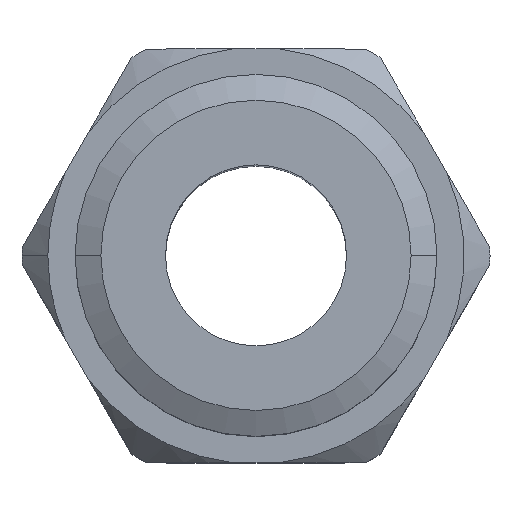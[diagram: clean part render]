
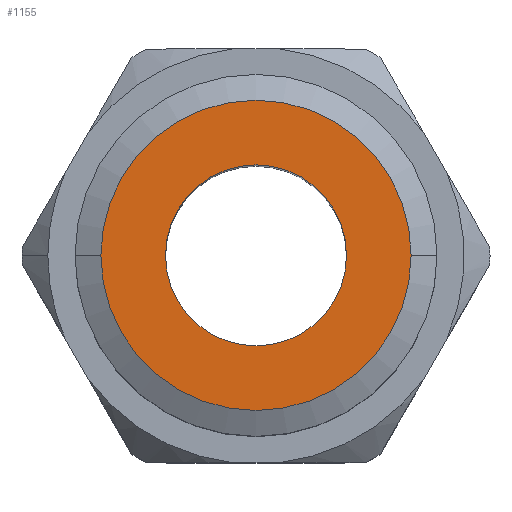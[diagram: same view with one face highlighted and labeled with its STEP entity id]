
A CAD part, top view. The second image highlights one B-rep face of the part: STEP entity #1155.
In plain terms, the highlighted planar face has unit normal (0, 0, 1).
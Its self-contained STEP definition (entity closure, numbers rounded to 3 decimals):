
#161 = ORIENTED_EDGE ( 'NONE', *, *, #1099, .F. ) ;
#204 = CARTESIAN_POINT ( 'NONE',  ( 6., 0., 0. ) ) ;
#253 = ORIENTED_EDGE ( 'NONE', *, *, #425, .F. ) ;
#383 = CARTESIAN_POINT ( 'NONE',  ( 0., 0., 0. ) ) ;
#394 = EDGE_LOOP ( 'NONE', ( #1353, #253 ) ) ;
#425 = EDGE_CURVE ( 'NONE', #1117, #1799, #584, .T. ) ;
#456 = DIRECTION ( 'NONE',  ( 0., 0., 1. ) ) ;
#482 = DIRECTION ( 'NONE',  ( 1., 0., 0. ) ) ;
#508 = CARTESIAN_POINT ( 'NONE',  ( -3.5, 0., 0. ) ) ;
#511 = EDGE_CURVE ( 'NONE', #1799, #1117, #1276, .T. ) ;
#584 = CIRCLE ( 'NONE', #2214, 6. ) ;
#612 = CARTESIAN_POINT ( 'NONE',  ( 0., 0., 0. ) ) ;
#647 = CARTESIAN_POINT ( 'NONE',  ( 0., 0., 0. ) ) ;
#808 = DIRECTION ( 'NONE',  ( 0., 0., 1. ) ) ;
#1099 = EDGE_CURVE ( 'NONE', #1474, #1586, #1894, .T. ) ;
#1117 = VERTEX_POINT ( 'NONE', #204 ) ;
#1155 = ADVANCED_FACE ( 'NONE', ( #1583, #1829 ), #2469, .T. ) ;
#1163 = CARTESIAN_POINT ( 'NONE',  ( 6., 0., 0. ) ) ;
#1276 = CIRCLE ( 'NONE', #1410, 6. ) ;
#1353 = ORIENTED_EDGE ( 'NONE', *, *, #511, .F. ) ;
#1378 = ORIENTED_EDGE ( 'NONE', *, *, #2621, .F. ) ;
#1410 = AXIS2_PLACEMENT_3D ( 'NONE', #1441, #1695, #2337 ) ;
#1441 = CARTESIAN_POINT ( 'NONE',  ( 0., 0., 0. ) ) ;
#1474 = VERTEX_POINT ( 'NONE', #2187 ) ;
#1502 = DIRECTION ( 'NONE',  ( -1., 0., 0. ) ) ;
#1522 = DIRECTION ( 'NONE',  ( 1., 0., 0. ) ) ;
#1583 = FACE_BOUND ( 'NONE', #1739, .T. ) ;
#1586 = VERTEX_POINT ( 'NONE', #508 ) ;
#1695 = DIRECTION ( 'NONE',  ( 0., 0., -1. ) ) ;
#1702 = AXIS2_PLACEMENT_3D ( 'NONE', #1163, #2050, #482 ) ;
#1739 = EDGE_LOOP ( 'NONE', ( #161, #1378 ) ) ;
#1799 = VERTEX_POINT ( 'NONE', #1884 ) ;
#1829 = FACE_OUTER_BOUND ( 'NONE', #394, .T. ) ;
#1884 = CARTESIAN_POINT ( 'NONE',  ( -6., 0., 0. ) ) ;
#1894 = CIRCLE ( 'NONE', #2867, 3.5 ) ;
#2050 = DIRECTION ( 'NONE',  ( 0., 0., 1. ) ) ;
#2080 = CIRCLE ( 'NONE', #2406, 3.5 ) ;
#2187 = CARTESIAN_POINT ( 'NONE',  ( 3.5, 0., 0. ) ) ;
#2214 = AXIS2_PLACEMENT_3D ( 'NONE', #612, #2391, #1502 ) ;
#2326 = DIRECTION ( 'NONE',  ( 1., 0., 0. ) ) ;
#2337 = DIRECTION ( 'NONE',  ( -1., 0., 0. ) ) ;
#2391 = DIRECTION ( 'NONE',  ( 0., 0., -1. ) ) ;
#2406 = AXIS2_PLACEMENT_3D ( 'NONE', #383, #808, #2326 ) ;
#2469 = PLANE ( 'NONE',  #1702 ) ;
#2621 = EDGE_CURVE ( 'NONE', #1586, #1474, #2080, .T. ) ;
#2867 = AXIS2_PLACEMENT_3D ( 'NONE', #647, #456, #1522 ) ;
